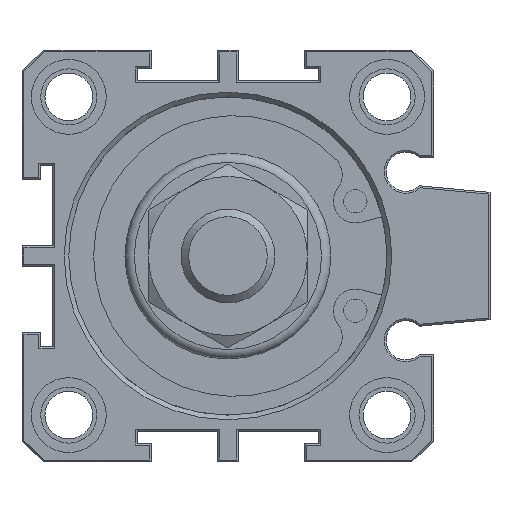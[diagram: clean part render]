
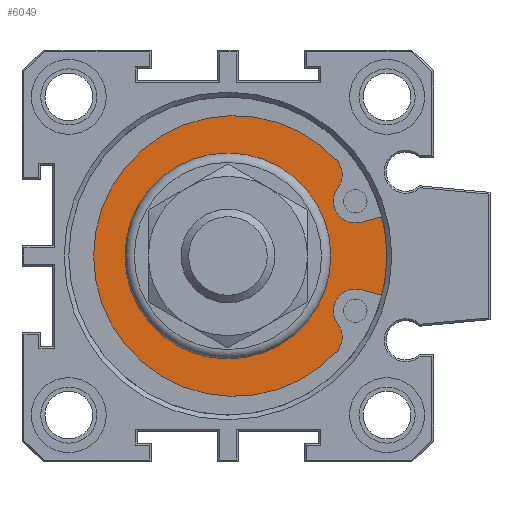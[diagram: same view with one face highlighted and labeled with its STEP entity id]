
A CAD part, front view. The second image highlights one B-rep face of the part: STEP entity #6049.
In plain terms, the highlighted planar face has unit normal (0, -1, 0).
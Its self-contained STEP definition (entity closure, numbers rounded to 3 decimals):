
#449=LINE('',#8683,#837);
#457=LINE('',#8709,#845);
#837=VECTOR('',#7493,1000.);
#845=VECTOR('',#7523,1000.);
#1862=ORIENTED_EDGE('',*,*,#2487,.F.);
#1863=ORIENTED_EDGE('',*,*,#2486,.F.);
#1864=ORIENTED_EDGE('',*,*,#2484,.T.);
#1865=ORIENTED_EDGE('',*,*,#2482,.T.);
#1866=ORIENTED_EDGE('',*,*,#2480,.T.);
#1867=ORIENTED_EDGE('',*,*,#2478,.T.);
#1868=ORIENTED_EDGE('',*,*,#2476,.T.);
#1869=ORIENTED_EDGE('',*,*,#2474,.T.);
#1870=ORIENTED_EDGE('',*,*,#2471,.T.);
#2471=EDGE_CURVE('',#2852,#2853,#449,.T.);
#2474=EDGE_CURVE('',#2854,#2852,#2993,.T.);
#2476=EDGE_CURVE('',#2855,#2854,#2994,.T.);
#2478=EDGE_CURVE('',#2856,#2855,#2995,.T.);
#2480=EDGE_CURVE('',#2857,#2856,#2996,.T.);
#2482=EDGE_CURVE('',#2858,#2857,#2997,.T.);
#2484=EDGE_CURVE('',#2859,#2858,#457,.T.);
#2486=EDGE_CURVE('',#2859,#2853,#2998,.T.);
#2487=EDGE_CURVE('',#2860,#2860,#2999,.F.);
#2852=VERTEX_POINT('',#8684);
#2853=VERTEX_POINT('',#8685);
#2854=VERTEX_POINT('',#8690);
#2855=VERTEX_POINT('',#8694);
#2856=VERTEX_POINT('',#8698);
#2857=VERTEX_POINT('',#8702);
#2858=VERTEX_POINT('',#8706);
#2859=VERTEX_POINT('',#8710);
#2860=VERTEX_POINT('',#8716);
#2993=CIRCLE('',#6410,2.34);
#2994=CIRCLE('',#6412,2.34);
#2995=CIRCLE('',#6414,15.);
#2996=CIRCLE('',#6416,2.34);
#2997=CIRCLE('',#6418,2.34);
#2998=CIRCLE('',#6421,17.85);
#2999=CIRCLE('',#6423,11.);
#3326=EDGE_LOOP('',(#1862));
#3327=EDGE_LOOP('',(#1863,#1864,#1865,#1866,#1867,#1868,#1869,#1870));
#3672=FACE_BOUND('',#3326,.T.);
#3673=FACE_BOUND('',#3327,.T.);
#3899=PLANE('',#6422);
#6049=ADVANCED_FACE('',(#3672,#3673),#3899,.F.);
#6410=AXIS2_PLACEMENT_3D('',#8689,#7498,#7499);
#6412=AXIS2_PLACEMENT_3D('',#8693,#7503,#7504);
#6414=AXIS2_PLACEMENT_3D('',#8697,#7508,#7509);
#6416=AXIS2_PLACEMENT_3D('',#8701,#7513,#7514);
#6418=AXIS2_PLACEMENT_3D('',#8705,#7518,#7519);
#6421=AXIS2_PLACEMENT_3D('',#8713,#7527,#7528);
#6422=AXIS2_PLACEMENT_3D('',#8714,#7529,#7530);
#6423=AXIS2_PLACEMENT_3D('',#8715,#7531,#7532);
#7493=DIRECTION('',(0.966,0.,-0.259));
#7498=DIRECTION('',(0.,1.,0.));
#7499=DIRECTION('',(1.,0.,0.));
#7503=DIRECTION('',(0.,-1.,0.));
#7504=DIRECTION('',(-1.,0.,0.));
#7508=DIRECTION('',(0.,-1.,0.));
#7509=DIRECTION('',(1.,0.,0.));
#7513=DIRECTION('',(0.,-1.,0.));
#7514=DIRECTION('',(-1.,0.,0.));
#7518=DIRECTION('',(0.,1.,0.));
#7519=DIRECTION('',(1.,0.,0.));
#7523=DIRECTION('',(-0.966,0.,-0.259));
#7527=DIRECTION('',(0.,1.,0.));
#7528=DIRECTION('',(-1.,0.,0.));
#7529=DIRECTION('',(0.,1.,0.));
#7530=DIRECTION('',(-1.,0.,0.));
#7531=DIRECTION('',(0.,1.,0.));
#7532=DIRECTION('',(-1.,0.,0.));
#8683=CARTESIAN_POINT('',(14.218,3.7,-3.601));
#8684=CARTESIAN_POINT('',(14.218,3.7,-3.601));
#8685=CARTESIAN_POINT('',(17.293,3.7,-4.425));
#8689=CARTESIAN_POINT('',(13.612,3.7,-5.861));
#8690=CARTESIAN_POINT('',(11.719,3.7,-7.237));
#8693=CARTESIAN_POINT('',(9.875,3.7,-8.677));
#8694=CARTESIAN_POINT('',(11.688,3.7,-10.157));
#8697=CARTESIAN_POINT('',(0.65,3.7,0.));
#8698=CARTESIAN_POINT('',(11.688,3.7,10.157));
#8701=CARTESIAN_POINT('',(9.875,3.7,8.677));
#8702=CARTESIAN_POINT('',(11.719,3.7,7.237));
#8705=CARTESIAN_POINT('',(13.612,3.7,5.861));
#8706=CARTESIAN_POINT('',(14.218,3.7,3.601));
#8709=CARTESIAN_POINT('',(17.293,3.7,4.425));
#8710=CARTESIAN_POINT('',(17.293,3.7,4.425));
#8713=CARTESIAN_POINT('',(0.,3.7,0.));
#8714=CARTESIAN_POINT('',(0.,3.7,-2.5));
#8715=CARTESIAN_POINT('',(0.,3.7,0.));
#8716=CARTESIAN_POINT('',(-11.,3.7,0.));
